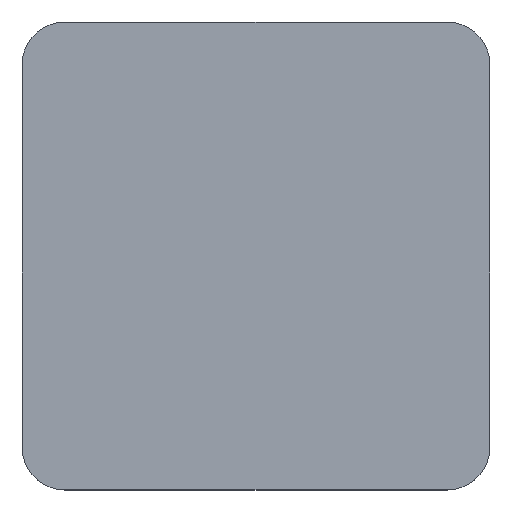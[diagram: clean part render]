
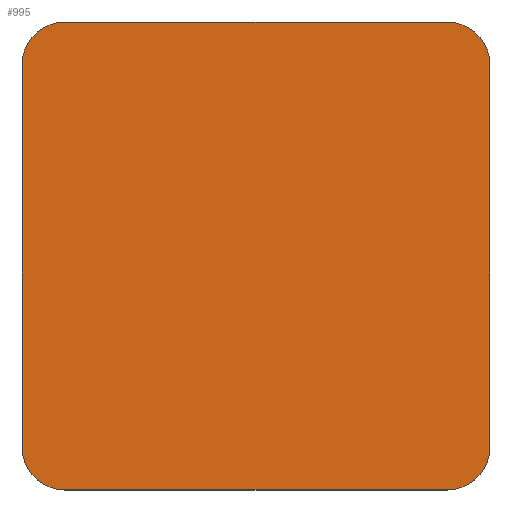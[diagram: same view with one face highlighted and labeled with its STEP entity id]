
A CAD part, top view. The second image highlights one B-rep face of the part: STEP entity #995.
In plain terms, the highlighted planar face has unit normal (0, 0, 1).
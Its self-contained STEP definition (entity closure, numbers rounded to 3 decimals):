
#20=PLANE('',#1074);
#71=FACE_OUTER_BOUND('',#125,.T.);
#125=EDGE_LOOP('',(#709,#710,#711,#712,#713,#714,#715,#716));
#183=LINE('',#1406,#319);
#186=LINE('',#1412,#322);
#187=LINE('',#1416,#323);
#188=LINE('',#1420,#324);
#319=VECTOR('',#1144,10.);
#322=VECTOR('',#1149,10.);
#323=VECTOR('',#1152,10.);
#324=VECTOR('',#1155,10.);
#454=CIRCLE('',#1072,2.);
#455=CIRCLE('',#1075,2.);
#456=CIRCLE('',#1076,2.);
#457=CIRCLE('',#1077,2.);
#463=VERTEX_POINT('',#1399);
#464=VERTEX_POINT('',#1401);
#465=VERTEX_POINT('',#1405);
#467=VERTEX_POINT('',#1411);
#468=VERTEX_POINT('',#1413);
#469=VERTEX_POINT('',#1415);
#470=VERTEX_POINT('',#1417);
#471=VERTEX_POINT('',#1419);
#559=EDGE_CURVE('',#463,#464,#454,.T.);
#561=EDGE_CURVE('',#465,#464,#183,.T.);
#564=EDGE_CURVE('',#463,#467,#186,.T.);
#565=EDGE_CURVE('',#468,#467,#455,.T.);
#566=EDGE_CURVE('',#468,#469,#187,.T.);
#567=EDGE_CURVE('',#470,#469,#456,.T.);
#568=EDGE_CURVE('',#470,#471,#188,.T.);
#569=EDGE_CURVE('',#465,#471,#457,.T.);
#709=ORIENTED_EDGE('',*,*,#559,.F.);
#710=ORIENTED_EDGE('',*,*,#564,.T.);
#711=ORIENTED_EDGE('',*,*,#565,.F.);
#712=ORIENTED_EDGE('',*,*,#566,.T.);
#713=ORIENTED_EDGE('',*,*,#567,.F.);
#714=ORIENTED_EDGE('',*,*,#568,.T.);
#715=ORIENTED_EDGE('',*,*,#569,.F.);
#716=ORIENTED_EDGE('',*,*,#561,.T.);
#995=ADVANCED_FACE('',(#71),#20,.T.);
#1072=AXIS2_PLACEMENT_3D('',#1402,#1139,#1140);
#1074=AXIS2_PLACEMENT_3D('',#1410,#1147,#1148);
#1075=AXIS2_PLACEMENT_3D('',#1414,#1150,#1151);
#1076=AXIS2_PLACEMENT_3D('',#1418,#1153,#1154);
#1077=AXIS2_PLACEMENT_3D('',#1421,#1156,#1157);
#1139=DIRECTION('center_axis',(0.,0.,-1.));
#1140=DIRECTION('ref_axis',(-0.707,0.707,0.));
#1144=DIRECTION('',(-1.,0.,0.));
#1147=DIRECTION('center_axis',(0.,0.,1.));
#1148=DIRECTION('ref_axis',(1.,0.,0.));
#1149=DIRECTION('',(0.,-1.,0.));
#1150=DIRECTION('center_axis',(0.,0.,-1.));
#1151=DIRECTION('ref_axis',(-0.707,-0.707,0.));
#1152=DIRECTION('',(1.,0.,0.));
#1153=DIRECTION('center_axis',(0.,0.,-1.));
#1154=DIRECTION('ref_axis',(0.707,-0.707,0.));
#1155=DIRECTION('',(0.,1.,0.));
#1156=DIRECTION('center_axis',(0.,0.,-1.));
#1157=DIRECTION('ref_axis',(0.707,0.707,0.));
#1399=CARTESIAN_POINT('',(-11.,9.,2.));
#1401=CARTESIAN_POINT('',(-9.,11.,2.));
#1402=CARTESIAN_POINT('Origin',(-9.,9.,2.));
#1405=CARTESIAN_POINT('',(9.,11.,2.));
#1406=CARTESIAN_POINT('',(11.,11.,2.));
#1410=CARTESIAN_POINT('Origin',(0.,0.,2.));
#1411=CARTESIAN_POINT('',(-11.,-9.,2.));
#1412=CARTESIAN_POINT('',(-11.,11.,2.));
#1413=CARTESIAN_POINT('',(-9.,-11.,2.));
#1414=CARTESIAN_POINT('Origin',(-9.,-9.,2.));
#1415=CARTESIAN_POINT('',(9.,-11.,2.));
#1416=CARTESIAN_POINT('',(-11.,-11.,2.));
#1417=CARTESIAN_POINT('',(11.,-9.,2.));
#1418=CARTESIAN_POINT('Origin',(9.,-9.,2.));
#1419=CARTESIAN_POINT('',(11.,9.,2.));
#1420=CARTESIAN_POINT('',(11.,-11.,2.));
#1421=CARTESIAN_POINT('Origin',(9.,9.,2.));
